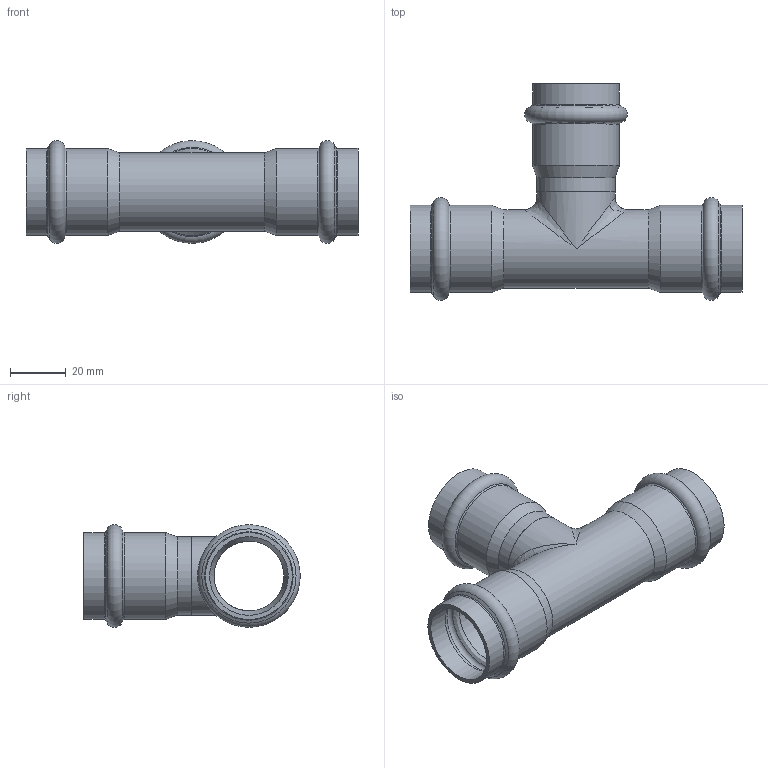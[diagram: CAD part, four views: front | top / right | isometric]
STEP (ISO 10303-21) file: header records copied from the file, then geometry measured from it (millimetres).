
FILE_DESCRIPTION((''),'2;1');
FILE_NAME('G:\Technics\CAD\Bauteile\028\6913028(1).stp','2008-02-25T08:35:19',('herberg'),(''),'Autodesk Inventor 2008','Autodesk Inventor 2008','');
FILE_SCHEMA(('AUTOMOTIVE_DESIGN { 1 0 10303 214 1 1 1 1 }'));
Length unit declared in the file: millimetre
Products named in the file (3): 6913028(1); LM_6913028(0); 6913028HM(0)
Assembly tree (2 placements, depth 2):
  6913028(1)
    LM_6913028(0)
    6913028HM(0)
Bounding box: 119 x 77.59 x 36.79 mm (x, y, z)
Volume: 23095.7 mm3; surface area: 31457 mm2
Topology: 2 solids, 2 shells, 57 faces, 125 edges, 64 vertices
Faces by surface type: cylinder 18, bspline 15, cone 12, torus 7, plane 5
Full cylindrical faces by diameter (mm): 25 x3, 28 x3, 28.2 x6, 31.2 x6
Entity records: 2582 total; most frequent: CARTESIAN_POINT 1564, DIRECTION 214, ORIENTED_EDGE 120, EDGE_LOOP 112, AXIS2_PLACEMENT_3D 107, EDGE_CURVE 60, FACE_OUTER_BOUND 57, ADVANCED_FACE 57
